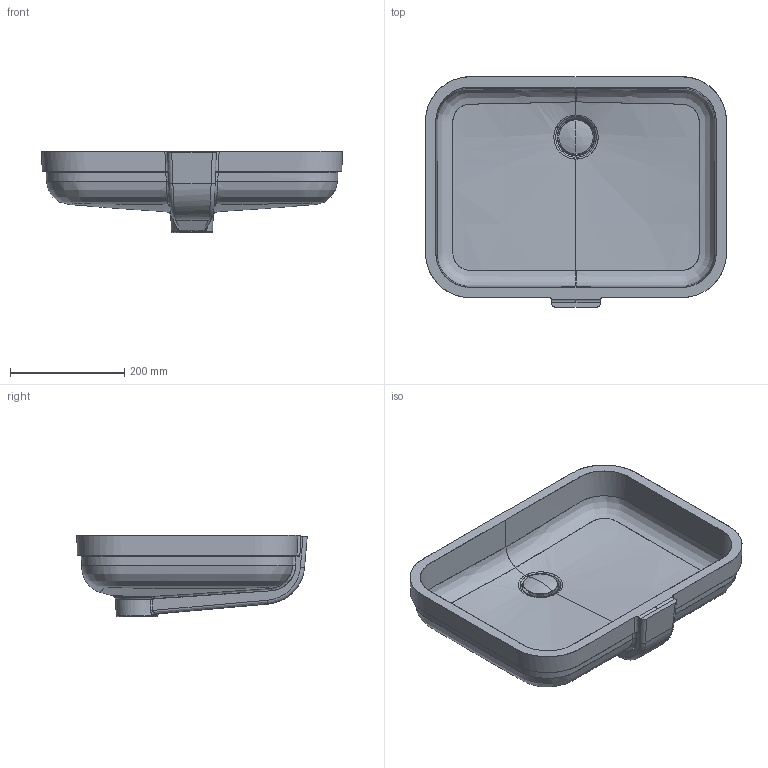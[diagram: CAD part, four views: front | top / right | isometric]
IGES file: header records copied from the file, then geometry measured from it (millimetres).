
Global section: file name: D:\01_Planungsdaten\Keramik\Soleil_by_Starck\039749\3D\039749.igs; native system: Rhinoceros ( Sep 13 2016 ); preprocessor: Trout Lake IGES 012 Sep 13 2016; date: 220613.113138; units: millimetre
Bounding box: 526 x 402.83 x 142.36 mm (x, y, z)
Surface area: 673582.8 mm2 (no closed solid volume)
Topology: 0 solids, 0 shells, 128 faces, 1606 edges, 1604 vertices
Faces by surface type: bspline 128
